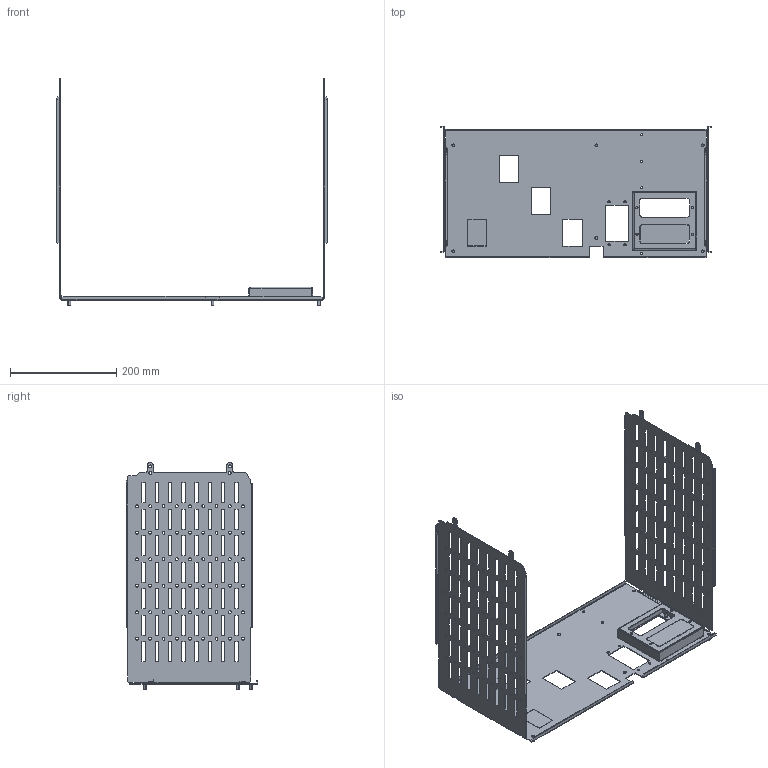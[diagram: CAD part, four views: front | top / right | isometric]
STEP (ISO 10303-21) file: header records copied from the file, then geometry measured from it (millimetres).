
FILE_DESCRIPTION(('CAx-IF Rec.Pracs.---Model Styling and Organization---1.2---2011-12-15','CAx-IF Rec.Pracs.---Geometric and Assembly Validation Properties---4.1---2014-06-16','CAx-IF Rec.Pracs.---PMI Polyline Presentation---2.0---2013-05-24'),'2;1');
FILE_NAME('R5M2W5M1A61.stp','2021-05-05T12:25:54+03:00',(''),(''),'STEP Interface 4.4 by CT CoreTechnologie','3D_Evolution4.4 by CT CoreTechnologie','');
FILE_SCHEMA(('AUTOMOTIVE_DESIGN { 1 0 10303 214 1 1 1 1 }'));
Length unit declared in the file: millimetre
Products named in the file (6): R5M2W5M1A61; RB.1568.00.00.0_-00; M5x8-DIN7500C_stright; RB.1285.00.00.0_-10; RB.1285.00.00.0_-11; RB.1257.00.00.0_-06
Assembly tree (14 placements, depth 2):
  R5M2W5M1A61
    RB.1568.00.00.0_-00
    M5x8-DIN7500C_stright  x10
    RB.1285.00.00.0_-10
    RB.1285.00.00.0_-11
    RB.1257.00.00.0_-06
Bounding box: 510 x 247.5 x 428.6 mm (x, y, z)
Surface area: 600785.3 mm2 (no closed solid volume)
Topology: 0 solids, 15 shells, 1093 faces, 3188 edges, 2117 vertices
Faces by surface type: plane 711, cylinder 374, bspline 8
Entity records: 37073 total; most frequent: CARTESIAN_POINT 6613, ORIENTED_EDGE 6268, DIRECTION 5952, EDGE_CURVE 3134, VECTOR 2416, LINE 2416, VERTEX_POINT 2081, AXIS2_PLACEMENT_3D 1768
